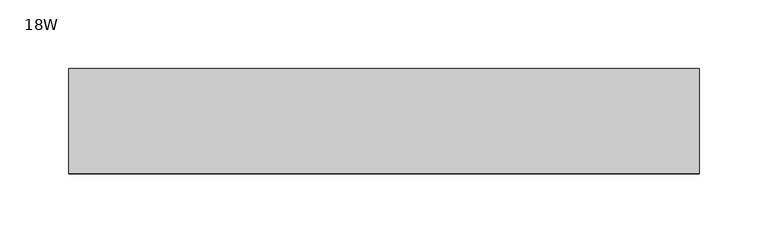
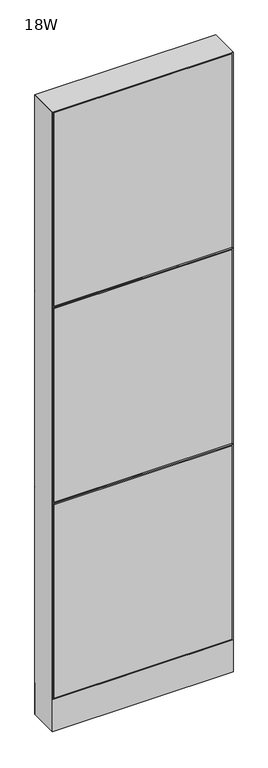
"""IFC4 building model written with IfcOpenShell, lengths in millimetres: furniture geometry, Steelcase - Montage - Frame - 65H - Enhanced Monolithic - Base Cavity : 18W."""

from ifc_helpers import new_model, si_unit, point, frame, frame_2d, origin, origin_with_axes, place, context, project, spatial, polyline, circle_curve, trimmed, segment, composite_curve, outline, extrude, faceted_brep, source, transform, mapped, element, save


def furniture_18w_3ef3206a(model_context):
    return source(origin(), model_context, "Body", "SolidModel", [
        extrude(outline(polyline([(3.175, 31.7500194), (3.175, 38.1000194), (454.025, 38.1000194), (454.025, 31.7500194), (3.175, 31.7500194)])), frame((0.0, 0.0, 92.075), z_axis=(0.0, 0.0, 1.0), x_axis=(1.0, 0.0, 0.0)), (0.0, 0.0, 1.0), 517.525),
        faceted_brep([(-5.4e-06, 38.102627, 612.7749973), (6.3499917, 31.7526299, 606.4250003), (6.3499917, 31.7526299, 619.1249997), (450.8500047, 31.7526299, 619.1249997), (450.8500047, 31.7526299, 606.4250003), (457.2, 38.1026253, 612.7749956)], [[[0, 1, 2]], [[3, 4, 5]], [[0, 2, 3, 5]], [[5, 4, 1, 0]], [[2, 1, 4, 3]]]),
        faceted_brep([(-5.4e-06, 38.102627, 1136.6499973), (6.3499917, 31.7526299, 1130.3000003), (6.3499917, 31.7526299, 1142.9999997), (450.8500047, 31.7526299, 1142.9999997), (450.8500047, 31.7526299, 1130.3000003), (457.2, 38.1026253, 1136.6499956)], [[[0, 1, 2]], [[3, 4, 5]], [[0, 2, 3, 5]], [[5, 4, 1, 0]], [[2, 1, 4, 3]]]),
        extrude(outline(polyline([(3.175, 31.7500194), (3.175, 38.1000194), (454.025, 38.1000194), (454.025, 31.7500194), (3.175, 31.7500194)])), frame((0.0, 0.0, 615.95), z_axis=(0.0, 0.0, 1.0), x_axis=(1.0, 0.0, 0.0)), (0.0, 0.0, 1.0), 517.525),
        extrude(outline(polyline([(3.175, 31.7500194), (3.175, 38.1000194), (454.025, 38.1000194), (454.025, 31.7500194), (3.175, 31.7500194)])), frame((0.0, 0.0, 1139.825), z_axis=(0.0, 0.0, 1.0), x_axis=(1.0, 0.0, 0.0)), (0.0, 0.0, 1.0), 517.525),
        extrude(outline(polyline([(3.175, -31.7500194), (454.025, -31.7500194), (454.025, -38.1000194), (3.175, -38.1000194), (3.175, -31.7500194)])), frame((0.0, 0.0, 92.075), z_axis=(0.0, 0.0, 1.0), x_axis=(1.0, 0.0, 0.0)), (0.0, 0.0, 1.0), 517.525),
        faceted_brep([(-5.4e-06, -38.102627, 612.7750027), (6.3499917, -31.7526299, 619.1249997), (6.3499917, -31.7526299, 606.4250003), (450.8500047, -31.7526299, 619.1249997), (457.2, -38.1026253, 612.7750044), (450.8500047, -31.7526299, 606.4250003)], [[[0, 1, 2]], [[3, 4, 5]], [[0, 4, 3, 1]], [[4, 0, 2, 5]], [[1, 3, 5, 2]]]),
        faceted_brep([(-5.4e-06, -38.102627, 1136.6500027), (6.3499917, -31.7526299, 1142.9999997), (6.3499917, -31.7526299, 1130.3000003), (450.8500047, -31.7526299, 1142.9999997), (457.2, -38.1026253, 1136.6500044), (450.8500047, -31.7526299, 1130.3000003)], [[[0, 1, 2]], [[3, 4, 5]], [[0, 4, 3, 1]], [[4, 0, 2, 5]], [[1, 3, 5, 2]]]),
        extrude(outline(polyline([(3.175, -31.7500194), (454.025, -31.7500194), (454.025, -38.1000194), (3.175, -38.1000194), (3.175, -31.7500194)])), frame((0.0, 0.0, 615.95), z_axis=(0.0, 0.0, 1.0), x_axis=(1.0, 0.0, 0.0)), (0.0, 0.0, 1.0), 517.525),
        extrude(outline(polyline([(3.175, -31.7500194), (454.025, -31.7500194), (454.025, -38.1000194), (3.175, -38.1000194), (3.175, -31.7500194)])), frame((0.0, 0.0, 1139.825), z_axis=(0.0, 0.0, 1.0), x_axis=(1.0, 0.0, 0.0)), (0.0, 0.0, 1.0), 517.525),
        extrude(outline(polyline([(6.350003, -31.7499985), (450.849997, -31.7499985), (457.2, -38.1000015), (0.0, -38.1000015), (6.350003, -31.7499985)])), frame((0.0, 0.0, 4.064), z_axis=(0.0, 0.0, 1.0), x_axis=(1.0, 0.0, 0.0)), (0.0, 0.0, 1.0), 84.835997),
        extrude(outline(polyline([(6.3500002, 31.7500017), (0.0, 38.1000015), (457.2, 38.1000015), (450.8500002, 31.7500017), (6.3500002, 31.7500017)])), frame((0.0, 0.0, 4.064), z_axis=(0.0, 0.0, 1.0), x_axis=(1.0, 0.0, 0.0)), (0.0, 0.0, 1.0), 84.835997),
        faceted_brep([(457.2, -38.1000015, 1660.525), (0.0, -38.1000015, 1660.525), (6.3500484, -31.749953, 1654.1749516), (450.8499516, -31.749953, 1654.1749516), (6.3500484, 31.749953, 1654.1749516), (450.8499516, 31.749953, 1654.1749516), (0.0, 38.1000015, 1660.525), (457.2, 38.1000015, 1660.525)], [[[0, 1, 2, 3]], [[3, 2, 4, 5]], [[6, 7, 5, 4]], [[1, 0, 7, 6]], [[2, 1, 6, 4]], [[0, 3, 5, 7]]]),
        extrude(outline(composite_curve([segment(trimmed(circle_curve(frame_2d((44.45, 0.0)), 15.24), [point((29.21, 0.0))], [point((59.69, 0.0))], False, "CARTESIAN"), True, "CONTINUOUS"), segment(trimmed(circle_curve(frame_2d((44.45, 0.0)), 15.24), [point((59.69, 0.0))], [point((29.21, 0.0))], False, "CARTESIAN"), True, "CONTINUOUS")], self_intersect=False)), origin_with_axes(), (0.0, 0.0, 1.0), 4.064),
        extrude(outline(composite_curve([segment(trimmed(circle_curve(frame_2d((412.75, 0.0)), 15.24), [point((397.51, 0.0))], [point((427.99, 0.0))], False, "CARTESIAN"), True, "CONTINUOUS"), segment(trimmed(circle_curve(frame_2d((412.75, 0.0)), 15.24), [point((427.99, 0.0))], [point((397.51, 0.0))], False, "CARTESIAN"), True, "CONTINUOUS")], self_intersect=False)), origin_with_axes(), (0.0, 0.0, 1.0), 4.064),
        faceted_brep([(457.2, -38.1000106, 4.064), (457.2, 38.1000015, 4.064), (457.2, 38.1000015, 1660.525), (457.2, -38.1000106, 1660.5249637), (0.0, 38.1000015, 4.064), (0.0, -38.1000015, 4.064), (0.0, -38.1000015, 1660.525), (0.0, 38.1000015, 1660.525), (450.8499879, 31.7500017, 606.425), (6.35, 31.7500017, 606.425), (6.3499998, 31.7500017, 619.125), (450.8499879, 31.7500017, 619.125), (6.35, -31.7499985, 619.125), (450.8499879, -31.7499985, 619.125), (6.350003, -31.7499985, 606.425), (450.8499879, -31.7499985, 606.425), (450.8499879, 31.7500017, 1130.3), (6.35, 31.7500017, 1130.3), (6.3499998, 31.7500017, 1143.0), (450.8499879, 31.7500017, 1143.0), (6.35, -31.7499985, 1143.0), (450.8499879, -31.7499985, 1143.0), (6.350003, -31.7499985, 1130.3), (450.8499879, -31.7499985, 1130.3), (6.35, 31.7500015, 4.064), (6.35, -31.7500015, 4.064), (450.8499879, 31.7499894, 4.064), (450.8499879, -31.7499985, 4.064), (6.35, 31.7500015, 1654.175), (6.35, -31.7500015, 1654.175), (450.8499879, -31.7499985, 1654.1749516), (450.8499879, 31.7499895, 1654.1749516)], [[[0, 1, 2, 3]], [[4, 5, 6, 7]], [[8, 9, 10, 11]], [[11, 10, 12, 13]], [[13, 12, 14, 15]], [[9, 8, 15, 14]], [[16, 17, 18, 19]], [[19, 18, 20, 21]], [[21, 20, 22, 23]], [[17, 16, 23, 22]], [[24, 25, 5, 4]], [[26, 1, 0, 27]], [[24, 4, 7, 28, 18, 17, 10, 9]], [[5, 25, 14, 12, 22, 20, 29, 6]], [[20, 18, 28, 29]], [[25, 24, 9, 14]], [[10, 17, 22, 12]], [[19, 21, 30, 31]], [[26, 27, 15, 8]], [[16, 11, 13, 23]], [[27, 0, 3, 30, 21, 23, 13, 15]], [[1, 26, 8, 11, 16, 19, 31, 2]], [[7, 6, 29, 28]], [[3, 2, 31, 30]]]),
    ])


if __name__ == "__main__":
    model = new_model("IFC4")
    model_context = context("Model", 3, world=origin())
    ifc_project = project(units=[si_unit("LENGTHUNIT", "METRE", prefix="MILLI")], contexts=[model_context])
    site = spatial("IfcSite", under=ifc_project)
    building = spatial("IfcBuilding", under=site)
    placement = place(None, origin())
    furniture_18w_shape = furniture_18w_3ef3206a(model_context)
    element("IfcFurniture", 1, ObjectType="Steelcase - Montage - Frame - 65H - Enhanced Monolithic - Base Cavity : 18W", at=placement, inside=building, context=model_context, shape_type="MappedRepresentation", body=[
        mapped(furniture_18w_shape, transform((0.0, 0.0, 0.0), x_axis=(1.0, 0.0, 0.0), y_axis=(0.0, 1.0, 0.0), z_axis=(0.0, 0.0, 1.0))),
    ])
    save(model, "model.ifc")
